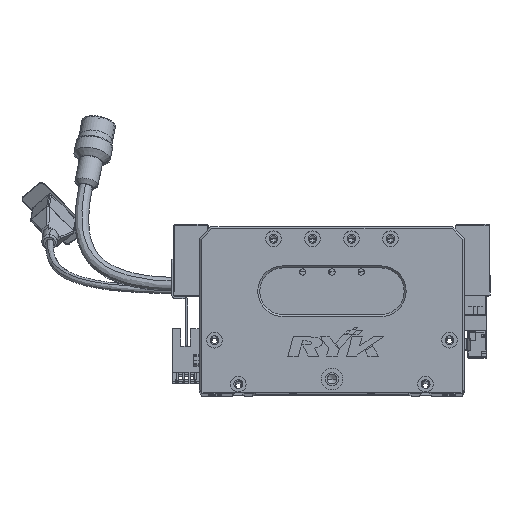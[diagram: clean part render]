
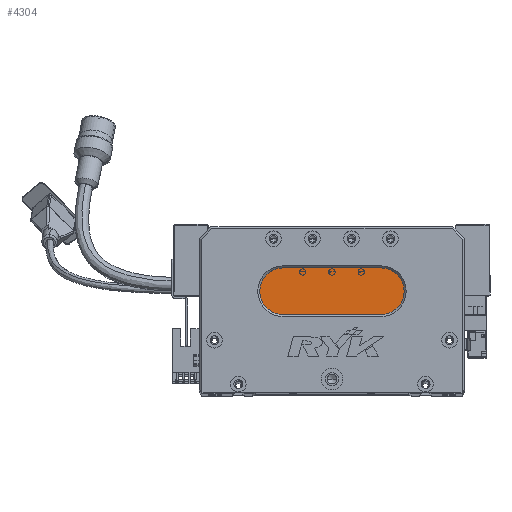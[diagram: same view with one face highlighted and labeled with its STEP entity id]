
A CAD part, top view. The second image highlights one B-rep face of the part: STEP entity #4304.
In plain terms, the highlighted planar face has unit normal (0, 0, 1) as drawn and (0, 0, -1) by its records, which use the part's own axes.
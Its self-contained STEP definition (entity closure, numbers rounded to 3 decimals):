
#2730 = ORIENTED_EDGE ( 'NONE', *, *, #17256, .T. ) ;
#4304 = ADVANCED_FACE ( 'NONE', ( #38971 ), #39716, .T. ) ;
#9695 = DIRECTION ( 'NONE',  ( 0., 0., -1. ) ) ;
#12131 = VECTOR ( 'NONE', #42008, 1000. ) ;
#12874 = EDGE_LOOP ( 'NONE', ( #52213, #20731, #22903, #64964, #2730 ) ) ;
#14037 = CARTESIAN_POINT ( 'NONE',  ( 93., 40., 13. ) ) ;
#15527 = AXIS2_PLACEMENT_3D ( 'NONE', #26464, #39023, #67539 ) ;
#15880 = DIRECTION ( 'NONE',  ( 0., 0., -1. ) ) ;
#16524 = LINE ( 'NONE', #18363, #45872 ) ;
#16825 = CARTESIAN_POINT ( 'NONE',  ( 43., 52., 13. ) ) ;
#16894 = CARTESIAN_POINT ( 'NONE',  ( 93., 52., 13. ) ) ;
#17070 = DIRECTION ( 'NONE',  ( -1., 0., 0. ) ) ;
#17256 = EDGE_CURVE ( 'NONE', #70193, #56497, #16524, .T. ) ;
#18363 = CARTESIAN_POINT ( 'NONE',  ( 93., 64., 13. ) ) ;
#18669 = VERTEX_POINT ( 'NONE', #41108 ) ;
#20731 = ORIENTED_EDGE ( 'NONE', *, *, #69179, .T. ) ;
#21653 = EDGE_CURVE ( 'NONE', #18669, #22217, #58440, .T. ) ;
#22217 = VERTEX_POINT ( 'NONE', #42355 ) ;
#22903 = ORIENTED_EDGE ( 'NONE', *, *, #21653, .T. ) ;
#23184 = DIRECTION ( 'NONE',  ( 0., 0., -1. ) ) ;
#26464 = CARTESIAN_POINT ( 'NONE',  ( 93., 52., 13. ) ) ;
#26508 = VERTEX_POINT ( 'NONE', #14037 ) ;
#27677 = LINE ( 'NONE', #65066, #12131 ) ;
#28752 = AXIS2_PLACEMENT_3D ( 'NONE', #16894, #15880, #63798 ) ;
#37211 = AXIS2_PLACEMENT_3D ( 'NONE', #16825, #23184, #17070 ) ;
#38971 = FACE_OUTER_BOUND ( 'NONE', #12874, .T. ) ;
#39023 = DIRECTION ( 'NONE',  ( 0., 0., -1. ) ) ;
#39552 = CARTESIAN_POINT ( 'NONE',  ( 43., 64., 13. ) ) ;
#39716 = PLANE ( 'NONE',  #28752 ) ;
#40364 = CIRCLE ( 'NONE', #15527, 12. ) ;
#41108 = CARTESIAN_POINT ( 'NONE',  ( 43., 40., 13. ) ) ;
#41970 = DIRECTION ( 'NONE',  ( 1., 0., 0. ) ) ;
#42008 = DIRECTION ( 'NONE',  ( -1., 0., 0. ) ) ;
#42355 = CARTESIAN_POINT ( 'NONE',  ( 31., 52., 13. ) ) ;
#45131 = EDGE_CURVE ( 'NONE', #22217, #70193, #72718, .T. ) ;
#45801 = CARTESIAN_POINT ( 'NONE',  ( 43., 52., 13. ) ) ;
#45872 = VECTOR ( 'NONE', #41970, 1000. ) ;
#52213 = ORIENTED_EDGE ( 'NONE', *, *, #63284, .T. ) ;
#56497 = VERTEX_POINT ( 'NONE', #73829 ) ;
#58432 = AXIS2_PLACEMENT_3D ( 'NONE', #45801, #9695, #62473 ) ;
#58440 = CIRCLE ( 'NONE', #58432, 12. ) ;
#62473 = DIRECTION ( 'NONE',  ( -1., 0., 0. ) ) ;
#63284 = EDGE_CURVE ( 'NONE', #56497, #26508, #40364, .T. ) ;
#63798 = DIRECTION ( 'NONE',  ( -1., 0., 0. ) ) ;
#64964 = ORIENTED_EDGE ( 'NONE', *, *, #45131, .T. ) ;
#65066 = CARTESIAN_POINT ( 'NONE',  ( 93., 40., 13. ) ) ;
#67539 = DIRECTION ( 'NONE',  ( -1., 0., 0. ) ) ;
#69179 = EDGE_CURVE ( 'NONE', #26508, #18669, #27677, .T. ) ;
#70193 = VERTEX_POINT ( 'NONE', #39552 ) ;
#72718 = CIRCLE ( 'NONE', #37211, 12. ) ;
#73829 = CARTESIAN_POINT ( 'NONE',  ( 93., 64., 13. ) ) ;
